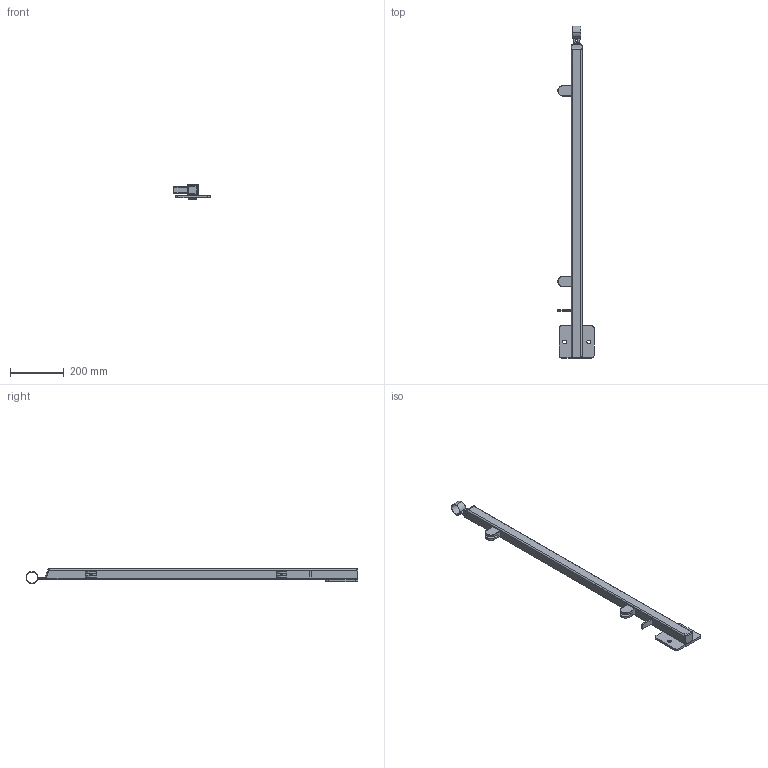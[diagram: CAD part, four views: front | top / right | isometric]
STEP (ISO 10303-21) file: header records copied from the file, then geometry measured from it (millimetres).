
FILE_DESCRIPTION (( 'STEP AP203' ), '1' );
FILE_NAME ('Ståndare KKR 40x40x3 sidomontage glas höger1.STEP', '2014-09-26T06:37:38', ( '' ), ( '' ), 'SwSTEP 2.0', 'SolidWorks 2014', '' );
FILE_SCHEMA (( 'CONFIG_CONTROL_DESIGN' ));
Length unit declared in the file: millimetre
Products named in the file (1): Ståndare KKR 40x40x3 sidomontage glas höger1
Bounding box: 135 x 1236.5 x 56.67 mm (x, y, z)
Volume: 709431 mm3; surface area: 406063.4 mm2
Topology: 2 solids, 4 shells, 399 faces, 1023 edges, 624 vertices
Faces by surface type: plane 217, cylinder 146, torus 16, cone 12, bspline 8
Entity records: 12296 total; most frequent: CARTESIAN_POINT 2565, ORIENTED_EDGE 2030, DIRECTION 2013, EDGE_CURVE 1015, AXIS2_PLACEMENT_3D 672, LINE 669, VECTOR 669, VERTEX_POINT 624
